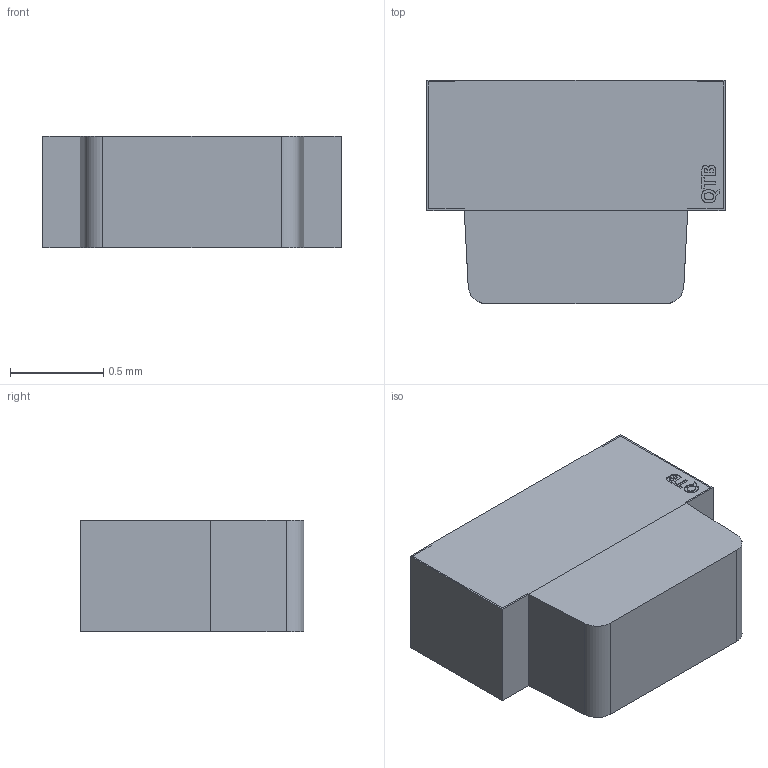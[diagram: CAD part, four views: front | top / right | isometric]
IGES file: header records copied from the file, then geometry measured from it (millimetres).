
Start section: Data from Parasolid IGES Translator 25.1.153, Copyright(c) 2006 Siemens PLM Software. All Rights Reserved.
Global section: file name: 6335ea54438823384e6059ba.iges; native system: By Siemens PLM Incorporated; preprocessor: XPlus GENERIC/IGES 25.1.153; author: Noname; organization: Noname; date: 20220929.185620; units: metre
Bounding box: 1.6 x 1.2 x 0.6 mm (x, y, z)
Surface area: 11.4 mm2 (no closed solid volume)
Topology: 0 solids, 0 shells, 134 faces, 702 edges, 702 vertices
Faces by surface type: extrusion 132, revolution 2
